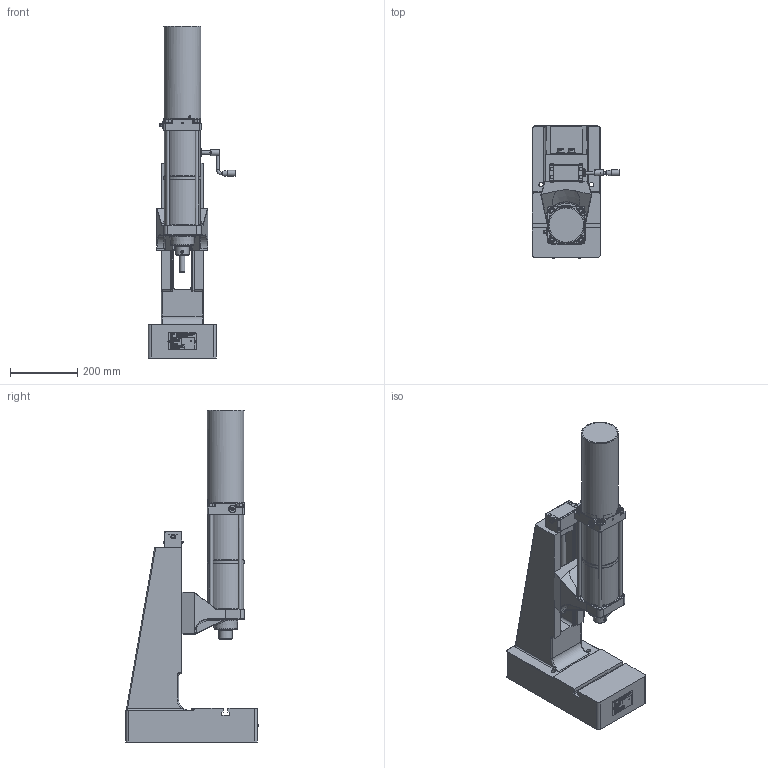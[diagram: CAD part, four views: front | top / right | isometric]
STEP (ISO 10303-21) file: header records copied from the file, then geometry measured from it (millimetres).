
FILE_DESCRIPTION(/* description */ ('Bausatz Ständer T4N HV-OST'),/* implementation_level */ '2;1');
FILE_NAME(/* name */ 'B:\02_CAD_oeffentlich\CAD_3D_oeffentlich_step\Druckluftpresse\DRP_0850_100_130.stp',/* time_stamp */ '2017-08-22T07:22:28+02:00',/* author */ ('Finsterle'),/* organization */ (''),/* preprocessor_version */ 'ST-DEVELOPER v16.1',/* originating_system */ 'Autodesk Inventor 2016',/* authorisation */ '');
FILE_SCHEMA (('AUTOMOTIVE_DESIGN { 1 0 10303 214 3 1 1 }'));
Products named in the file (5): ENG-000753-1_V; ENG-001024_V; HBF-000760; ENG-000755; HBF-001038_V
Assembly tree (5 placements, depth 2):
  HBF-001038_V
    ENG-000753-1_V
    ENG-001024_V
    HBF-000760
    ENG-000755  x2
Bounding box: 259.79 x 393.8 x 989.31 mm (x, y, z)
Volume: 11817962.9 mm3; surface area: 1593713.8 mm2
Topology: 6 solids, 16 shells, 7543 faces, 20455 edges, 13373 vertices
Faces by surface type: plane 4574, bspline 2104, cylinder 465, cone 224, torus 101, sphere 75
Full cylindrical faces by diameter (mm): 1 x1, 2 x1, 2.4 x3, 2.459 x2, 3 x7, 3.242 x7, 3.5 x2, 3.65 x4, 4 x6, 4.134 x1, 4.5 x4, 4.917 x6, 5 x3, 6.2 x4, 6.5 x2, 6.647 x1, 8 x7, 8.4 x1, 8.5 x1, 10 x7, 10.02 x1, 10.106 x2, 10.5 x12, 11.8 x2, 12 x7, 13 x8, 13.5 x4, 14 x3, 14.376 x2, 14.95 x3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
Entity records: 256461 total; most frequent: CARTESIAN_POINT 75564, ORIENTED_EDGE 39762, DIRECTION 27698, EDGE_CURVE 19868, LINE 13922, VECTOR 13922, VERTEX_POINT 13244, EDGE_LOOP 8490
